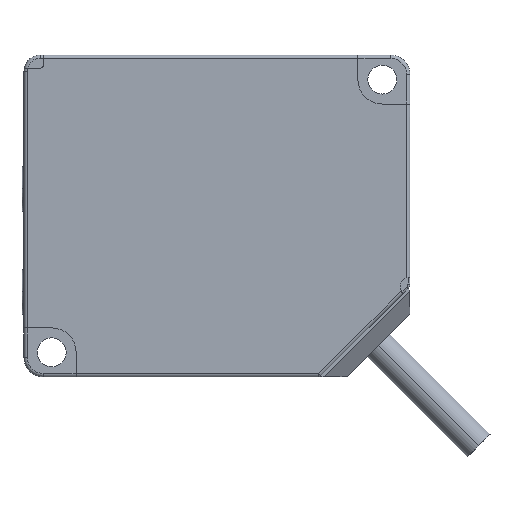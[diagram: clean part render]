
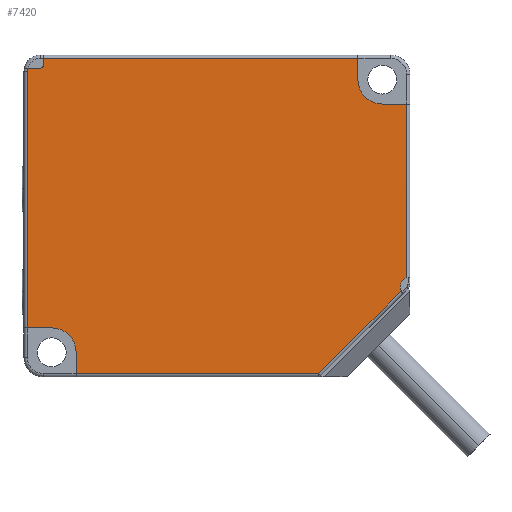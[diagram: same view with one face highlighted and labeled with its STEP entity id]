
A CAD part, left-side view. The second image highlights one B-rep face of the part: STEP entity #7420.
In plain terms, the highlighted planar face has unit normal (-1, 0, 0).
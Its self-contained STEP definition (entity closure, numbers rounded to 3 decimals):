
#690=CARTESIAN_POINT('',(41.798,78.427,-37.4));
#700=VERTEX_POINT('',#690);
#880=CARTESIAN_POINT('',(41.798,78.427,2.5));
#890=VERTEX_POINT('',#880);
#920=CARTESIAN_POINT('',(41.798,78.427,-1.91));
#930=DIRECTION('',(0.,0.,-1.));
#940=VECTOR('',#930,1.);
#950=LINE('',#920,#940);
#960=EDGE_CURVE('',#890,#700,#950,.T.);
#2970=CARTESIAN_POINT('',(41.798,23.227,-2.6));
#2980=VERTEX_POINT('',#2970);
#3010=CARTESIAN_POINT('',(41.798,23.227,1.2));
#3020=DIRECTION('',(1.,0.,0.));
#3030=DIRECTION('',(0.,1.,0.));
#3040=AXIS2_PLACEMENT_3D('',#3010,#3020,#3030);
#3050=CIRCLE('',#3040,3.8);
#3060=CARTESIAN_POINT('',(41.798,27.027,1.2));
#3070=VERTEX_POINT('',#3060);
#3080=EDGE_CURVE('',#2980,#3070,#3050,.T.);
#6170=CARTESIAN_POINT('',(41.798,3.834,-71.578));
#6180=DIRECTION('',(1.,0.,0.));
#6190=DIRECTION('',(0.,1.,0.));
#6200=AXIS2_PLACEMENT_3D('',#6170,#6180,#6190);
#6210=PLANE('',#6200);
#6220=CARTESIAN_POINT('',(41.798,76.427,2.5));
#6230=DIRECTION('',(-1.,0.,0.));
#6240=DIRECTION('',(0.,-1.,0.));
#6250=AXIS2_PLACEMENT_3D('',#6220,#6230,#6240);
#6260=CIRCLE('',#6250,2.);
#6270=CARTESIAN_POINT('',(41.798,78.363,3.));
#6280=VERTEX_POINT('',#6270);
#6290=EDGE_CURVE('',#6280,#890,#6260,.T.);
#6300=ORIENTED_EDGE('',*,*,#6290,.T.);
#6310=CARTESIAN_POINT('',(41.798,60.916,3.));
#6320=DIRECTION('',(0.,-1.,0.));
#6330=VECTOR('',#6320,1.);
#6340=LINE('',#6310,#6330);
#6350=CARTESIAN_POINT('',(41.798,76.327,3.));
#6360=VERTEX_POINT('',#6350);
#6370=EDGE_CURVE('',#6280,#6360,#6340,.T.);
#6380=ORIENTED_EDGE('',*,*,#6370,.F.);
#6390=CARTESIAN_POINT('',(41.798,76.327,3.4));
#6400=DIRECTION('',(1.,0.,0.));
#6410=DIRECTION('',(0.,1.,0.));
#6420=AXIS2_PLACEMENT_3D('',#6390,#6400,#6410);
#6430=CIRCLE('',#6420,0.4);
#6440=CARTESIAN_POINT('',(41.798,75.927,3.4));
#6450=VERTEX_POINT('',#6440);
#6460=EDGE_CURVE('',#6450,#6360,#6430,.T.);
#6470=ORIENTED_EDGE('',*,*,#6460,.T.);
#6480=CARTESIAN_POINT('',(41.798,75.927,-1.91));
#6490=DIRECTION('',(0.,0.,1.));
#6500=VECTOR('',#6490,1.);
#6510=LINE('',#6480,#6500);
#6520=CARTESIAN_POINT('',(41.798,75.927,4.5));
#6530=VERTEX_POINT('',#6520);
#6540=EDGE_CURVE('',#6450,#6530,#6510,.T.);
#6550=ORIENTED_EDGE('',*,*,#6540,.F.);
#6560=CARTESIAN_POINT('',(41.798,60.916,4.5));
#6570=DIRECTION('',(0.,-1.,0.));
#6580=VECTOR('',#6570,1.);
#6590=LINE('',#6560,#6580);
#6600=CARTESIAN_POINT('',(41.798,27.027,4.5));
#6610=VERTEX_POINT('',#6600);
#6620=EDGE_CURVE('',#6530,#6610,#6590,.T.);
#6630=ORIENTED_EDGE('',*,*,#6620,.F.);
#6640=CARTESIAN_POINT('',(41.798,27.027,-1.91));
#6650=DIRECTION('',(0.,0.,-1.));
#6660=VECTOR('',#6650,1.);
#6670=LINE('',#6640,#6660);
#6680=EDGE_CURVE('',#6610,#3070,#6670,.T.);
#6690=ORIENTED_EDGE('',*,*,#6680,.F.);
#6700=ORIENTED_EDGE('',*,*,#3080,.T.);
#6710=CARTESIAN_POINT('',(41.798,60.916,-2.6))
;
#6720=DIRECTION('',(0.,-1.,0.));
#6730=VECTOR('',#6720,1.);
#6740=LINE('',#6710,#6730);
#6750=CARTESIAN_POINT('',(41.798,19.427,-2.6));
#6760=VERTEX_POINT('',#6750);
#6770=EDGE_CURVE('',#2980,#6760,#6740,.T.);
#6780=ORIENTED_EDGE('',*,*,#6770,.F.);
#6790=CARTESIAN_POINT('',(41.798,19.427,-1.91));
#6800=DIRECTION('',(0.,0.,-1.));
#6810=VECTOR('',#6800,1.);
#6820=LINE('',#6790,#6810);
#6830=CARTESIAN_POINT('',(41.798,19.427,-29.586))
;
#6840=VERTEX_POINT('',#6830);
#6850=EDGE_CURVE('',#6760,#6840,#6820,.T.);
#6860=ORIENTED_EDGE('',*,*,#6850,.F.);
#6870=CARTESIAN_POINT('',(41.798,18.927,-31.));
#6880=DIRECTION('',(1.,0.,0.));
#6890=DIRECTION('',(0.,1.,0.));
#6900=AXIS2_PLACEMENT_3D('',#6870,#6880,#6890);
#6910=CIRCLE('',#6900,1.5);
#6920=CARTESIAN_POINT('',(41.798,20.427,-31.));
#6930=VERTEX_POINT('',#6920);
#6940=EDGE_CURVE('',#6930,#6840,#6910,.T.);
#6950=ORIENTED_EDGE('',*,*,#6940,.T.);
#6960=CARTESIAN_POINT('',(41.798,20.28,-31.646))
;
#6970=VERTEX_POINT('',#6960);
#6980=EDGE_CURVE('',#6970,#6930,#6910,.T.);
#6990=ORIENTED_EDGE('',*,*,#6980,.T.);
#7000=CARTESIAN_POINT('',(41.798,-9.456,-1.91)
);
#7010=DIRECTION('',(0.,0.707,-0.707));
#7020=VECTOR('',#7010,1.);
#7030=LINE('',#7000,#7020);
#7040=CARTESIAN_POINT('',(41.798,33.134,-44.5));
#7050=VERTEX_POINT('',#7040);
#7060=EDGE_CURVE('',#6970,#7050,#7030,.T.);
#7070=ORIENTED_EDGE('',*,*,#7060,.F.);
#7080=CARTESIAN_POINT('',(41.798,60.916,-44.5));
#7090=DIRECTION('',(0.,1.,0.));
#7100=VECTOR('',#7090,1.);
#7110=LINE('',#7080,#7100);
#7120=CARTESIAN_POINT('',(41.798,70.827,-44.5));
#7130=VERTEX_POINT('',#7120);
#7140=EDGE_CURVE('',#7050,#7130,#7110,.T.);
#7150=ORIENTED_EDGE('',*,*,#7140,.F.);
#7160=CARTESIAN_POINT('',(41.798,70.827,-1.91));
#7170=DIRECTION('',(0.,0.,1.));
#7180=VECTOR('',#7170,1.);
#7190=LINE('',#7160,#7180);
#7200=CARTESIAN_POINT('',(41.798,70.827,-41.2));
#7210=VERTEX_POINT('',#7200);
#7220=EDGE_CURVE('',#7130,#7210,#7190,.T.);
#7230=ORIENTED_EDGE('',*,*,#7220,.F.);
#7240=CARTESIAN_POINT('',(41.798,74.627,-41.2));
#7250=DIRECTION('',(1.,0.,0.));
#7260=DIRECTION('',(0.,1.,0.));
#7270=AXIS2_PLACEMENT_3D('',#7240,#7250,#7260);
#7280=CIRCLE('',#7270,3.8);
#7290=CARTESIAN_POINT('',(41.798,74.627,-37.4));
#7300=VERTEX_POINT('',#7290);
#7310=EDGE_CURVE('',#7300,#7210,#7280,.T.);
#7320=ORIENTED_EDGE('',*,*,#7310,.T.);
#7330=CARTESIAN_POINT('',(41.798,60.916,-37.4))
;
#7340=DIRECTION('',(0.,1.,0.));
#7350=VECTOR('',#7340,1.);
#7360=LINE('',#7330,#7350);
#7370=EDGE_CURVE('',#7300,#700,#7360,.T.);
#7380=ORIENTED_EDGE('',*,*,#7370,.F.);
#7390=ORIENTED_EDGE('',*,*,#960,.T.);
#7400=EDGE_LOOP('',(#7390,#7380,#7320,#7230,#7150,#7070,#6990,#6950,
#6860,#6780,#6700,#6690,#6630,#6550,#6470,#6380,#6300));
#7410=FACE_OUTER_BOUND('',#7400,.T.);
#7420=ADVANCED_FACE('',(#7410),#6210,.F.);
